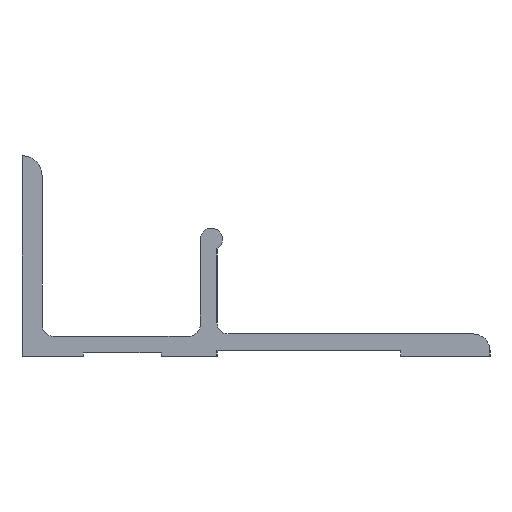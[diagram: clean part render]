
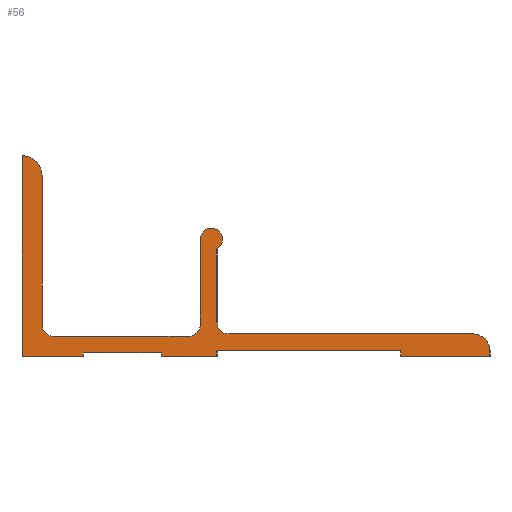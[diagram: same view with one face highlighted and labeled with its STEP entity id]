
A CAD part, left-side view. The second image highlights one B-rep face of the part: STEP entity #56.
In plain terms, the highlighted planar face has unit normal (-1, 0, 0).
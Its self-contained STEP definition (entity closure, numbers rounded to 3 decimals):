
#56 = ADVANCED_FACE( '', ( #125 ), #126, .F. );
#125 = FACE_OUTER_BOUND( '', #204, .T. );
#126 = PLANE( '', #205 );
#204 = EDGE_LOOP( '', ( #297, #298, #299, #300, #301, #302, #303, #304, #305, #306, #307, #308, #309, #310, #311, #312, #313, #314, #315, #316, #317, #318 ) );
#205 = AXIS2_PLACEMENT_3D( '', #319, #320, #321 );
#297 = ORIENTED_EDGE( '', *, *, #511, .F. );
#298 = ORIENTED_EDGE( '', *, *, #512, .F. );
#299 = ORIENTED_EDGE( '', *, *, #513, .F. );
#300 = ORIENTED_EDGE( '', *, *, #514, .F. );
#301 = ORIENTED_EDGE( '', *, *, #507, .F. );
#302 = ORIENTED_EDGE( '', *, *, #498, .F. );
#303 = ORIENTED_EDGE( '', *, *, #515, .F. );
#304 = ORIENTED_EDGE( '', *, *, #516, .F. );
#305 = ORIENTED_EDGE( '', *, *, #517, .F. );
#306 = ORIENTED_EDGE( '', *, *, #518, .F. );
#307 = ORIENTED_EDGE( '', *, *, #519, .F. );
#308 = ORIENTED_EDGE( '', *, *, #520, .F. );
#309 = ORIENTED_EDGE( '', *, *, #521, .F. );
#310 = ORIENTED_EDGE( '', *, *, #522, .T. );
#311 = ORIENTED_EDGE( '', *, *, #523, .F. );
#312 = ORIENTED_EDGE( '', *, *, #524, .F. );
#313 = ORIENTED_EDGE( '', *, *, #503, .F. );
#314 = ORIENTED_EDGE( '', *, *, #493, .T. );
#315 = ORIENTED_EDGE( '', *, *, #525, .F. );
#316 = ORIENTED_EDGE( '', *, *, #526, .T. );
#317 = ORIENTED_EDGE( '', *, *, #527, .F. );
#318 = ORIENTED_EDGE( '', *, *, #528, .F. );
#319 = CARTESIAN_POINT( '', ( 0., 0., 16.2 ) );
#320 = DIRECTION( '', ( 1., 0., 0. ) );
#321 = DIRECTION( '', ( 0., 0., -1. ) );
#493 = EDGE_CURVE( '', #583, #584, #585, .T. );
#498 = EDGE_CURVE( '', #592, #593, #594, .T. );
#503 = EDGE_CURVE( '', #583, #601, #602, .T. );
#507 = EDGE_CURVE( '', #593, #607, #608, .T. );
#511 = EDGE_CURVE( '', #613, #614, #615, .T. );
#512 = EDGE_CURVE( '', #616, #613, #617, .T. );
#513 = EDGE_CURVE( '', #618, #616, #619, .T. );
#514 = EDGE_CURVE( '', #607, #618, #620, .T. );
#515 = EDGE_CURVE( '', #621, #592, #622, .T. );
#516 = EDGE_CURVE( '', #623, #621, #624, .T. );
#517 = EDGE_CURVE( '', #625, #623, #626, .T. );
#518 = EDGE_CURVE( '', #627, #625, #628, .T. );
#519 = EDGE_CURVE( '', #629, #627, #630, .T. );
#520 = EDGE_CURVE( '', #631, #629, #632, .T. );
#521 = EDGE_CURVE( '', #633, #631, #634, .T. );
#522 = EDGE_CURVE( '', #633, #635, #636, .T. );
#523 = EDGE_CURVE( '', #637, #635, #638, .T. );
#524 = EDGE_CURVE( '', #601, #637, #639, .T. );
#525 = EDGE_CURVE( '', #640, #584, #641, .T. );
#526 = EDGE_CURVE( '', #640, #642, #643, .T. );
#527 = EDGE_CURVE( '', #644, #642, #645, .T. );
#528 = EDGE_CURVE( '', #614, #644, #646, .T. );
#583 = VERTEX_POINT( '', #717 );
#584 = VERTEX_POINT( '', #718 );
#585 = CIRCLE( '', #719, 1. );
#592 = VERTEX_POINT( '', #728 );
#593 = VERTEX_POINT( '', #729 );
#594 = LINE( '', #730, #731 );
#601 = VERTEX_POINT( '', #741 );
#602 = LINE( '', #742, #743 );
#607 = VERTEX_POINT( '', #750 );
#608 = LINE( '', #751, #752 );
#613 = VERTEX_POINT( '', #759 );
#614 = VERTEX_POINT( '', #760 );
#615 = LINE( '', #761, #762 );
#616 = VERTEX_POINT( '', #763 );
#617 = LINE( '', #764, #765 );
#618 = VERTEX_POINT( '', #766 );
#619 = LINE( '', #767, #768 );
#620 = LINE( '', #769, #770 );
#621 = VERTEX_POINT( '', #771 );
#622 = LINE( '', #772, #773 );
#623 = VERTEX_POINT( '', #774 );
#624 = LINE( '', #775, #776 );
#625 = VERTEX_POINT( '', #777 );
#626 = LINE( '', #778, #779 );
#627 = VERTEX_POINT( '', #780 );
#628 = LINE( '', #781, #782 );
#629 = VERTEX_POINT( '', #783 );
#630 = LINE( '', #784, #785 );
#631 = VERTEX_POINT( '', #786 );
#632 = CIRCLE( '', #787, 1.5 );
#633 = VERTEX_POINT( '', #788 );
#634 = LINE( '', #789, #790 );
#635 = VERTEX_POINT( '', #791 );
#636 = CIRCLE( '', #792, 1. );
#637 = VERTEX_POINT( '', #793 );
#638 = LINE( '', #794, #795 );
#639 = CIRCLE( '', #796, 1. );
#640 = VERTEX_POINT( '', #797 );
#641 = LINE( '', #798, #799 );
#642 = VERTEX_POINT( '', #800 );
#643 = CIRCLE( '', #801, 1. );
#644 = VERTEX_POINT( '', #802 );
#645 = LINE( '', #803, #804 );
#646 = CIRCLE( '', #805, 1.8 );
#717 = CARTESIAN_POINT( '', ( 0., -16., 2.8 ) );
#718 = CARTESIAN_POINT( '', ( 0., -15., 1.8 ) );
#719 = AXIS2_PLACEMENT_3D( '', #904, #905, #906 );
#728 = CARTESIAN_POINT( '', ( 0., -17.5, 0. ) );
#729 = CARTESIAN_POINT( '', ( 0., -12.5, 0. ) );
#730 = CARTESIAN_POINT( '', ( 0., -17.5, 0. ) );
#731 = VECTOR( '', #912, 1000. );
#741 = CARTESIAN_POINT( '', ( 0., -16., 10.5 ) );
#742 = CARTESIAN_POINT( '', ( 0., -16., 2.8 ) );
#743 = VECTOR( '', #916, 1000. );
#750 = CARTESIAN_POINT( '', ( 0., -12.5, 0.3 ) );
#751 = CARTESIAN_POINT( '', ( 0., -12.5, 0. ) );
#752 = VECTOR( '', #919, 1000. );
#759 = CARTESIAN_POINT( '', ( 0., 0., 0. ) );
#760 = CARTESIAN_POINT( '', ( 0., 0., 18. ) );
#761 = CARTESIAN_POINT( '', ( 0., 0., 0. ) );
#762 = VECTOR( '', #922, 1000. );
#763 = CARTESIAN_POINT( '', ( 0., -5.5, 0. ) );
#764 = CARTESIAN_POINT( '', ( 0., -5.5, 0. ) );
#765 = VECTOR( '', #923, 1000. );
#766 = CARTESIAN_POINT( '', ( 0., -5.5, 0.3 ) );
#767 = CARTESIAN_POINT( '', ( 0., -5.5, 0.3 ) );
#768 = VECTOR( '', #924, 1000. );
#769 = CARTESIAN_POINT( '', ( 0., -12.5, 0.3 ) );
#770 = VECTOR( '', #925, 1000. );
#771 = CARTESIAN_POINT( '', ( 0., -17.5, 0.5 ) );
#772 = CARTESIAN_POINT( '', ( 0., -17.5, 0.5 ) );
#773 = VECTOR( '', #926, 1000. );
#774 = CARTESIAN_POINT( '', ( 0., -34., 0.5 ) );
#775 = CARTESIAN_POINT( '', ( 0., -34., 0.5 ) );
#776 = VECTOR( '', #927, 1000. );
#777 = CARTESIAN_POINT( '', ( 0., -34., 0. ) );
#778 = CARTESIAN_POINT( '', ( 0., -34., 0. ) );
#779 = VECTOR( '', #928, 1000. );
#780 = CARTESIAN_POINT( '', ( 0., -42., 0. ) );
#781 = CARTESIAN_POINT( '', ( 0., -42., 0. ) );
#782 = VECTOR( '', #929, 1000. );
#783 = CARTESIAN_POINT( '', ( 0., -42., 0.5 ) );
#784 = CARTESIAN_POINT( '', ( 0., -42., 0.5 ) );
#785 = VECTOR( '', #930, 1000. );
#786 = CARTESIAN_POINT( '', ( 0., -40.5, 2. ) );
#787 = AXIS2_PLACEMENT_3D( '', #931, #932, #933 );
#788 = CARTESIAN_POINT( '', ( 0., -18.5, 2. ) );
#789 = CARTESIAN_POINT( '', ( 0., -18.5, 2. ) );
#790 = VECTOR( '', #934, 1000. );
#791 = CARTESIAN_POINT( '', ( 0., -17.5, 3. ) );
#792 = AXIS2_PLACEMENT_3D( '', #935, #936, #937 );
#793 = CARTESIAN_POINT( '', ( 0., -17.5, 9.634 ) );
#794 = CARTESIAN_POINT( '', ( 0., -17.5, 9.634 ) );
#795 = VECTOR( '', #938, 1000. );
#796 = AXIS2_PLACEMENT_3D( '', #939, #940, #941 );
#797 = CARTESIAN_POINT( '', ( 0., -2.8, 1.8 ) );
#798 = CARTESIAN_POINT( '', ( 0., -2.8, 1.8 ) );
#799 = VECTOR( '', #942, 1000. );
#800 = CARTESIAN_POINT( '', ( 0., -1.8, 2.8 ) );
#801 = AXIS2_PLACEMENT_3D( '', #943, #944, #945 );
#802 = CARTESIAN_POINT( '', ( 0., -1.8, 16.2 ) );
#803 = CARTESIAN_POINT( '', ( 0., -1.8, 16.2 ) );
#804 = VECTOR( '', #946, 1000. );
#805 = AXIS2_PLACEMENT_3D( '', #947, #948, #949 );
#904 = CARTESIAN_POINT( '', ( 0., -15., 2.8 ) );
#905 = DIRECTION( '', ( 1., 0., 0. ) );
#906 = DIRECTION( '', ( 0., 0., -1. ) );
#912 = DIRECTION( '', ( 0., 1., 0. ) );
#916 = DIRECTION( '', ( 0., 0., 1. ) );
#919 = DIRECTION( '', ( 0., 0., 1. ) );
#922 = DIRECTION( '', ( 0., 0., 1. ) );
#923 = DIRECTION( '', ( 0., 1., 0. ) );
#924 = DIRECTION( '', ( 0., 0., -1. ) );
#925 = DIRECTION( '', ( 0., 1., 0. ) );
#926 = DIRECTION( '', ( 0., 0., -1. ) );
#927 = DIRECTION( '', ( 0., 1., 0. ) );
#928 = DIRECTION( '', ( 0., 0., 1. ) );
#929 = DIRECTION( '', ( 0., 1., 0. ) );
#930 = DIRECTION( '', ( 0., 0., -1. ) );
#931 = CARTESIAN_POINT( '', ( 0., -40.5, 0.5 ) );
#932 = DIRECTION( '', ( 1., 0., 0. ) );
#933 = DIRECTION( '', ( 0., 0., -1. ) );
#934 = DIRECTION( '', ( 0., -1., 0. ) );
#935 = CARTESIAN_POINT( '', ( 0., -18.5, 3. ) );
#936 = DIRECTION( '', ( 1., 0., 0. ) );
#937 = DIRECTION( '', ( 0., 0., -1. ) );
#938 = DIRECTION( '', ( 0., 0., -1. ) );
#939 = CARTESIAN_POINT( '', ( 0., -17., 10.5 ) );
#940 = DIRECTION( '', ( 1., 0., 0. ) );
#941 = DIRECTION( '', ( 0., 0., -1. ) );
#942 = DIRECTION( '', ( 0., -1., 0. ) );
#943 = CARTESIAN_POINT( '', ( 0., -2.8, 2.8 ) );
#944 = DIRECTION( '', ( 1., 0., 0. ) );
#945 = DIRECTION( '', ( 0., 0., -1. ) );
#946 = DIRECTION( '', ( 0., 0., -1. ) );
#947 = CARTESIAN_POINT( '', ( 0., 0., 16.2 ) );
#948 = DIRECTION( '', ( 1., 0., 0. ) );
#949 = DIRECTION( '', ( 0., 0., -1. ) );
